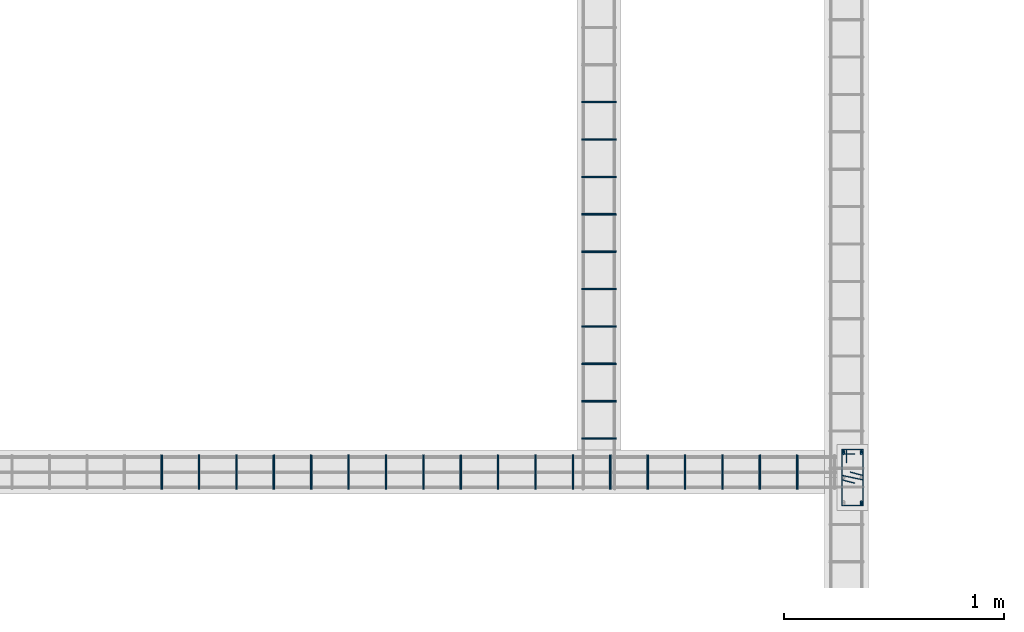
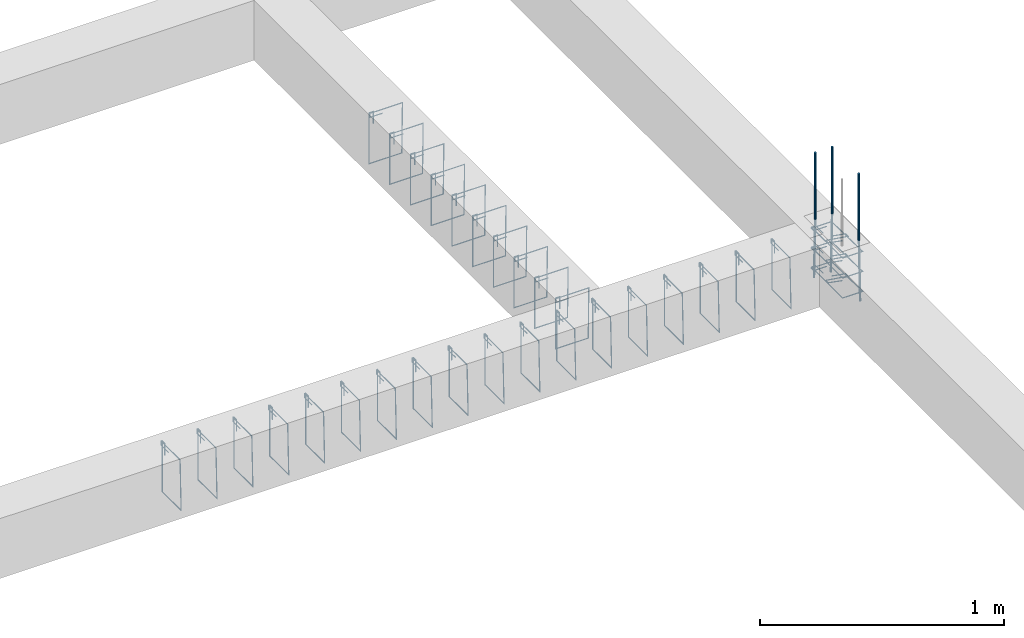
# One storey, part 34 of 150: 37 reinforcing bars.
"""IFC4 building model written with IfcOpenShell, lengths in centimetres."""

from ifc_helpers import new_model, entity, si_unit, derived_unit, frame, origin_with_axes, place, context, project, spatial, source, transform, mapped, element, save


model = new_model("IFC4")

# Units and contexts
model_context = context("Model", 3, precision=1e-05, world=origin_with_axes(), identifier="Body")
ifc_project = project(units=[si_unit("LENGTHUNIT", "METRE", prefix="CENTI"), si_unit("VOLUMEUNIT", "CUBIC_METRE"), si_unit("AREAUNIT", "SQUARE_METRE"), si_unit("POWERUNIT", "WATT"), si_unit("LUMINOUSFLUXUNIT", "LUMEN"), si_unit("ELECTRICCURRENTUNIT", "AMPERE"), si_unit("PRESSUREUNIT", "PASCAL", prefix="KILO"), si_unit("MASSUNIT", "GRAM", prefix="KILO"), si_unit("PLANEANGLEUNIT", "RADIAN"), derived_unit("VOLUMETRICFLOWRATEUNIT", [(si_unit("LENGTHUNIT", "METRE"), 3), (si_unit("TIMEUNIT", "SECOND"), -1)])], contexts=[model_context])

# Site, building, storey
site_placement = place(None, frame((-4000.0, 0.0, 0.0), z_axis=(0.0, 0.0, 1.0), x_axis=(1.0, 0.0, 0.0)))
site = spatial("IfcSite", under=ifc_project, at=site_placement, Name="PADRÃO")
building_placement = place(site_placement, frame((0.0, 0.0, -14.0)))
building = spatial("IfcBuilding", under=site, at=building_placement, Name="CRECHE PRÉ-ESCOLA TIPO 2")
placement = place(building_placement, origin_with_axes())
storey_placement = place(placement, frame((0.0, 0.0, 30.0), z_axis=(0.0, 0.0, 1.0), x_axis=(1.0, 0.0, 0.0)))
storey = spatial("IfcBuildingStorey", under=building, at=storey_placement, Name="VIGA BALDRAME", CompositionType="ELEMENT", Elevation=16.0)

# Reinforcing bars
shared_shape_1 = source(origin_with_axes(), model_context, "Body", "AdvancedSweptSolid", [
    entity("IfcSweptDiskSolid", entity("IfcCompositeCurve", [entity("IfcCompositeCurveSegment", "CONTINUOUS", True, entity("IfcPolyline", [entity("IfcCartesianPoint", [4.25, 21.75, 0.0]), entity("IfcCartesianPoint", [4.25, 27.75, 0.0])])), entity("IfcCompositeCurveSegment", "CONTINUOUS", True, entity("IfcPolyline", [entity("IfcCartesianPoint", [4.25, 27.75, 0.0]), entity("IfcCartesianPoint", [2.25, 27.75, 0.0])])), entity("IfcCompositeCurveSegment", "CONTINUOUS", True, entity("IfcPolyline", [entity("IfcCartesianPoint", [2.25, 27.75, 0.0]), entity("IfcCartesianPoint", [2.25, 2.25, 0.0])])), entity("IfcCompositeCurveSegment", "CONTINUOUS", True, entity("IfcPolyline", [entity("IfcCartesianPoint", [2.25, 2.25, 0.0]), entity("IfcCartesianPoint", [11.75, 2.25, 0.0])])), entity("IfcCompositeCurveSegment", "CONTINUOUS", True, entity("IfcPolyline", [entity("IfcCartesianPoint", [11.75, 2.25, 0.0]), entity("IfcCartesianPoint", [11.75, 27.75, -0.5])])), entity("IfcCompositeCurveSegment", "CONTINUOUS", True, entity("IfcPolyline", [entity("IfcCartesianPoint", [11.75, 27.75, -0.5]), entity("IfcCartesianPoint", [2.25, 27.75, -0.5])])), entity("IfcCompositeCurveSegment", "CONTINUOUS", True, entity("IfcPolyline", [entity("IfcCartesianPoint", [2.25, 27.75, -0.5]), entity("IfcCartesianPoint", [2.25, 25.75, -0.5])])), entity("IfcCompositeCurveSegment", "CONTINUOUS", True, entity("IfcPolyline", [entity("IfcCartesianPoint", [2.25, 25.75, -0.5]), entity("IfcCartesianPoint", [8.25, 25.75, -0.5])]))], False), 0.25),
])
for number, where, z_axis, x_axis, name in (
    (1, (1111.72, 1013.5, -5.0), (0.0, 0.0, 1.0), (1.0, 0.0, 0.0), "P119 - Estribo"),
    (2, (1111.72, 1013.5, -15.0), (0.0, 0.0, 1.0), (1.0, 0.0, 0.0), "P119 - Estribo"),
    (3, (1111.72, 1013.5, -25.0), (0.0, 0.0, 1.0), (1.0, 0.0, 0.0), "P119 - Estribo"),
):
    element("IfcReinforcingBar", number, at=place(storey_placement, frame(where, z_axis=z_axis, x_axis=x_axis)), inside=storey, Name=name, BarLength=0.0, CrossSectionArea=1.9634954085e-05, NominalDiameter=0.5, PredefinedType="MAIN", context=model_context, shape_type="MappedRepresentation", body=[
        mapped(shared_shape_1, transform((0.0, 0.0, 0.0), scale=1.0)),
    ])
shared_shape_2 = source(origin_with_axes(), model_context, "Body", "AdvancedSweptSolid", [
    entity("IfcSweptDiskSolid", entity("IfcCompositeCurve", [entity("IfcCompositeCurveSegment", "CONTINUOUS", True, entity("IfcPolyline", [entity("IfcCartesianPoint", [5.88627916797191, 17.5449050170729, 0.0]), entity("IfcCartesianPoint", [11.75, 16.0, 0.0])])), entity("IfcCompositeCurveSegment", "CONTINUOUS", True, entity("IfcPolyline", [entity("IfcCartesianPoint", [11.75, 16.0, 0.0]), entity("IfcCartesianPoint", [11.75, 14.0, 0.0])])), entity("IfcCompositeCurveSegment", "CONTINUOUS", True, entity("IfcPolyline", [entity("IfcCartesianPoint", [11.75, 14.0, 0.0]), entity("IfcCartesianPoint", [2.25, 16.0, 0.0])])), entity("IfcCompositeCurveSegment", "CONTINUOUS", True, entity("IfcPolyline", [entity("IfcCartesianPoint", [2.25, 16.0, 0.0]), entity("IfcCartesianPoint", [2.25, 14.0, 0.0])])), entity("IfcCompositeCurveSegment", "CONTINUOUS", True, entity("IfcPolyline", [entity("IfcCartesianPoint", [2.25, 14.0, 0.0]), entity("IfcCartesianPoint", [8.11372083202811, 12.4550949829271, 0.0])]))], False), 0.25),
])
for number, where, z_axis, x_axis, name in (
    (4, (1111.72, 1013.5, -4.5), (0.0, 0.0, 1.0), (1.0, 0.0, 0.0), "P119 - Grampo"),
    (5, (1111.72, 1013.5, -14.5), (0.0, 0.0, 1.0), (1.0, 0.0, 0.0), "P119 - Grampo"),
    (6, (1111.72, 1013.5, -24.5), (0.0, 0.0, 1.0), (1.0, 0.0, 0.0), "P119 - Grampo"),
):
    element("IfcReinforcingBar", number, at=place(storey_placement, frame(where, z_axis=z_axis, x_axis=x_axis)), inside=storey, Name=name, BarLength=0.0, CrossSectionArea=1.9634954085e-05, NominalDiameter=0.5, PredefinedType="MAIN", context=model_context, shape_type="MappedRepresentation", body=[
        mapped(shared_shape_2, transform((0.0, 0.0, 0.0), scale=1.0)),
    ])
shared_shape_3 = source(origin_with_axes(), model_context, "Body", "AdvancedSweptSolid", [
    entity("IfcSweptDiskSolid", entity("IfcCompositeCurve", [entity("IfcCompositeCurveSegment", "CONTINUOUS", True, entity("IfcPolyline", [entity("IfcCartesianPoint", [2.0, -6.0, 0.0]), entity("IfcCartesianPoint", [2.0, 0.0, 0.0])])), entity("IfcCompositeCurveSegment", "CONTINUOUS", True, entity("IfcPolyline", [entity("IfcCartesianPoint", [2.0, 0.0, 0.0]), entity("IfcCartesianPoint", [0.0, 0.0, 0.0])])), entity("IfcCompositeCurveSegment", "CONTINUOUS", True, entity("IfcPolyline", [entity("IfcCartesianPoint", [0.0, 0.0, 0.0]), entity("IfcCartesianPoint", [0.0, -25.5, 0.0])])), entity("IfcCompositeCurveSegment", "CONTINUOUS", True, entity("IfcPolyline", [entity("IfcCartesianPoint", [0.0, -25.5, 0.0]), entity("IfcCartesianPoint", [15.5, -25.5, 0.0])])), entity("IfcCompositeCurveSegment", "CONTINUOUS", True, entity("IfcPolyline", [entity("IfcCartesianPoint", [15.5, -25.5, 0.0]), entity("IfcCartesianPoint", [15.5, 0.0, 0.5])])), entity("IfcCompositeCurveSegment", "CONTINUOUS", True, entity("IfcPolyline", [entity("IfcCartesianPoint", [15.5, 0.0, 0.5]), entity("IfcCartesianPoint", [0.0, 0.0, 0.5])])), entity("IfcCompositeCurveSegment", "CONTINUOUS", True, entity("IfcPolyline", [entity("IfcCartesianPoint", [0.0, 0.0, 0.5]), entity("IfcCartesianPoint", [0.0, -2.0, 0.5])])), entity("IfcCompositeCurveSegment", "CONTINUOUS", True, entity("IfcPolyline", [entity("IfcCartesianPoint", [0.0, -2.0, 0.5]), entity("IfcCartesianPoint", [6.0, -2.0, 0.5])]))], False), 0.25),
])
for number, where, z_axis, x_axis, name in (
    (7, (995.7, 1131.5, -2.25), (0.0, -1.0, 0.0), (1.0, 0.0, 0.0), "V178 - Estribo"),
    (8, (995.7, 1148.5, -2.25), (0.0, -1.0, 0.0), (1.0, 0.0, 0.0), "V178 - Estribo"),
    (9, (995.7, 1165.5, -2.25), (0.0, -1.0, 0.0), (1.0, 0.0, 0.0), "V178 - Estribo"),
    (10, (995.7, 1097.5, -2.25), (0.0, -1.0, 0.0), (1.0, 0.0, 0.0), "V178 - Estribo"),
    (11, (995.7, 1046.5, -2.25), (0.0, -1.0, 0.0), (1.0, 0.0, 0.0), "V178 - Estribo"),
    (12, (995.7, 1063.5, -2.25), (0.0, -1.0, 0.0), (1.0, 0.0, 0.0), "V178 - Estribo"),
    (13, (995.7, 1182.5, -2.25), (0.0, -1.0, 0.0), (1.0, 0.0, 0.0), "V178 - Estribo"),
    (14, (995.7, 1199.5, -2.25), (0.0, -1.0, 0.0), (1.0, 0.0, 0.0), "V178 - Estribo"),
    (15, (995.7, 1114.5, -2.25), (0.0, -1.0, 0.0), (1.0, 0.0, 0.0), "V178 - Estribo"),
    (16, (995.7, 1080.5, -2.25), (0.0, -1.0, 0.0), (1.0, 0.0, 0.0), "V178 - Estribo"),
):
    element("IfcReinforcingBar", number, at=place(storey_placement, frame(where, z_axis=z_axis, x_axis=x_axis)), inside=storey, Name=name, BarLength=0.0, CrossSectionArea=1.9634954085e-05, NominalDiameter=0.5, PredefinedType="MAIN", context=model_context, shape_type="MappedRepresentation", body=[
        mapped(shared_shape_3, transform((0.0, 0.0, 0.0), scale=1.0)),
    ])
shared_shape_4 = source(origin_with_axes(), model_context, "Body", "AdvancedSweptSolid", [
    entity("IfcSweptDiskSolid", entity("IfcCompositeCurve", [entity("IfcCompositeCurveSegment", "CONTINUOUS", True, entity("IfcPolyline", [entity("IfcCartesianPoint", [2.0, -6.0, 0.0]), entity("IfcCartesianPoint", [2.0, 0.0, 0.0])])), entity("IfcCompositeCurveSegment", "CONTINUOUS", True, entity("IfcPolyline", [entity("IfcCartesianPoint", [2.0, 0.0, 0.0]), entity("IfcCartesianPoint", [0.0, 0.0, 0.0])])), entity("IfcCompositeCurveSegment", "CONTINUOUS", True, entity("IfcPolyline", [entity("IfcCartesianPoint", [0.0, 0.0, 0.0]), entity("IfcCartesianPoint", [0.0, -25.5, 0.0])])), entity("IfcCompositeCurveSegment", "CONTINUOUS", True, entity("IfcPolyline", [entity("IfcCartesianPoint", [0.0, -25.5, 0.0]), entity("IfcCartesianPoint", [15.5, -25.5, 0.0])])), entity("IfcCompositeCurveSegment", "CONTINUOUS", True, entity("IfcPolyline", [entity("IfcCartesianPoint", [15.5, -25.5, 0.0]), entity("IfcCartesianPoint", [15.5, 0.0, 0.5])])), entity("IfcCompositeCurveSegment", "CONTINUOUS", True, entity("IfcPolyline", [entity("IfcCartesianPoint", [15.5, 0.0, 0.5]), entity("IfcCartesianPoint", [0.0, 0.0, 0.5])])), entity("IfcCompositeCurveSegment", "CONTINUOUS", True, entity("IfcPolyline", [entity("IfcCartesianPoint", [0.0, 0.0, 0.5]), entity("IfcCartesianPoint", [0.0, -2.0, 0.5])])), entity("IfcCompositeCurveSegment", "CONTINUOUS", True, entity("IfcPolyline", [entity("IfcCartesianPoint", [0.0, -2.0, 0.5]), entity("IfcCartesianPoint", [6.0, -2.0, 0.5])]))], False), 0.25),
])
for number, where, z_axis, x_axis, name in (
    (17, (804.86, 1038.75, -2.25), (-1.0, 0.0, 0.0), (0.0, -1.0, 0.0), "V140 - Estribo"),
    (18, (821.86, 1038.75, -2.25), (-1.0, 0.0, 0.0), (0.0, -1.0, 0.0), "V140 - Estribo"),
    (19, (838.86, 1038.75, -2.25), (-1.0, 0.0, 0.0), (0.0, -1.0, 0.0), "V140 - Estribo"),
    (20, (855.86, 1038.75, -2.25), (-1.0, 0.0, 0.0), (0.0, -1.0, 0.0), "V140 - Estribo"),
    (21, (872.86, 1038.75, -2.25), (-1.0, 0.0, 0.0), (0.0, -1.0, 0.0), "V140 - Estribo"),
    (22, (889.86, 1038.75, -2.25), (-1.0, 0.0, 0.0), (0.0, -1.0, 0.0), "V140 - Estribo"),
    (23, (906.86, 1038.75, -2.25), (-1.0, 0.0, 0.0), (0.0, -1.0, 0.0), "V140 - Estribo"),
    (24, (923.86, 1038.75, -2.25), (-1.0, 0.0, 0.0), (0.0, -1.0, 0.0), "V140 - Estribo"),
    (25, (940.86, 1038.75, -2.25), (-1.0, 0.0, 0.0), (0.0, -1.0, 0.0), "V140 - Estribo"),
    (26, (957.86, 1038.75, -2.25), (-1.0, 0.0, 0.0), (0.0, -1.0, 0.0), "V140 - Estribo"),
    (27, (974.86, 1038.75, -2.25), (-1.0, 0.0, 0.0), (0.0, -1.0, 0.0), "V140 - Estribo"),
    (28, (991.86, 1038.75, -2.25), (-1.0, 0.0, 0.0), (0.0, -1.0, 0.0), "V140 - Estribo"),
    (29, (1008.86, 1038.75, -2.25), (-1.0, 0.0, 0.0), (0.0, -1.0, 0.0), "V140 - Estribo"),
    (30, (1025.86, 1038.75, -2.25), (-1.0, 0.0, 0.0), (0.0, -1.0, 0.0), "V140 - Estribo"),
    (31, (1042.86, 1038.75, -2.25), (-1.0, 0.0, 0.0), (0.0, -1.0, 0.0), "V140 - Estribo"),
    (32, (1059.86, 1038.75, -2.25), (-1.0, 0.0, 0.0), (0.0, -1.0, 0.0), "V140 - Estribo"),
    (33, (1076.86, 1038.75, -2.25), (-1.0, 0.0, 0.0), (0.0, -1.0, 0.0), "V140 - Estribo"),
    (34, (1093.86, 1038.75, -2.25), (-1.0, 0.0, 0.0), (0.0, -1.0, 0.0), "V140 - Estribo"),
):
    element("IfcReinforcingBar", number, at=place(storey_placement, frame(where, z_axis=z_axis, x_axis=x_axis)), inside=storey, Name=name, BarLength=0.0, CrossSectionArea=1.9634954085e-05, NominalDiameter=0.5, PredefinedType="MAIN", context=model_context, shape_type="MappedRepresentation", body=[
        mapped(shared_shape_4, transform((0.0, 0.0, 0.0), scale=1.0)),
    ])
reinforcing_bar_placement = place(storey_placement, frame((1122.72, 1017.00013877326, 33.3573001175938), z_axis=(0.0, 0.0, 1.0), x_axis=(1.0, 0.0, 0.0)))
element("IfcReinforcingBar", 35, at=reinforcing_bar_placement, inside=storey, Name="P119 - Longitudinal", BarLength=0.0, CrossSectionArea=7.853981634e-05, NominalDiameter=1.0, PredefinedType="MAIN", context=model_context, shape_type="AdvancedSweptSolid", body=[
    entity("IfcSweptDiskSolid", entity("IfcCompositeCurve", [entity("IfcCompositeCurveSegment", "CONTINUOUS", True, entity("IfcPolyline", [entity("IfcCartesianPoint", [0.0, -0.50013877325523, -63.3573001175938]), entity("IfcCartesianPoint", [0.0, 0.49986122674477, -33.3573001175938])])), entity("IfcCompositeCurveSegment", "CONTINUOUS", True, entity("IfcPolyline", [entity("IfcCartesianPoint", [0.0, 0.49986122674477, -33.3573001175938]), entity("IfcCartesianPoint", [0.0, 0.49986122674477, 0.0])]))], False), 0.5),
])
for number, where, z_axis, x_axis, name in (
    (36, (1122.72, 1039.99986122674, 33.3573001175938), (0.0, 0.0, 1.0), (1.0, 0.0, 0.0), "P119 - Longitudinal"),
    (37, (1114.72, 1039.99986122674, 33.3573001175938), (0.0, 0.0, 1.0), (1.0, 0.0, 0.0), "P119 - Longitudinal"),
):
    element("IfcReinforcingBar", number, at=place(storey_placement, frame(where, z_axis=z_axis, x_axis=x_axis)), inside=storey, Name=name, BarLength=0.0, CrossSectionArea=7.853981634e-05, NominalDiameter=1.0, PredefinedType="MAIN", context=model_context, shape_type="AdvancedSweptSolid", body=[
        entity("IfcSweptDiskSolid", entity("IfcCompositeCurve", [entity("IfcCompositeCurveSegment", "CONTINUOUS", True, entity("IfcPolyline", [entity("IfcCartesianPoint", [0.0, 0.50013877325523, -63.3573001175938]), entity("IfcCartesianPoint", [0.0, -0.49986122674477, -33.3573001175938])])), entity("IfcCompositeCurveSegment", "CONTINUOUS", True, entity("IfcPolyline", [entity("IfcCartesianPoint", [0.0, -0.49986122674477, -33.3573001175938]), entity("IfcCartesianPoint", [0.0, -0.49986122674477, 0.0])]))], False), 0.5),
    ])

save(model, "model.ifc")
